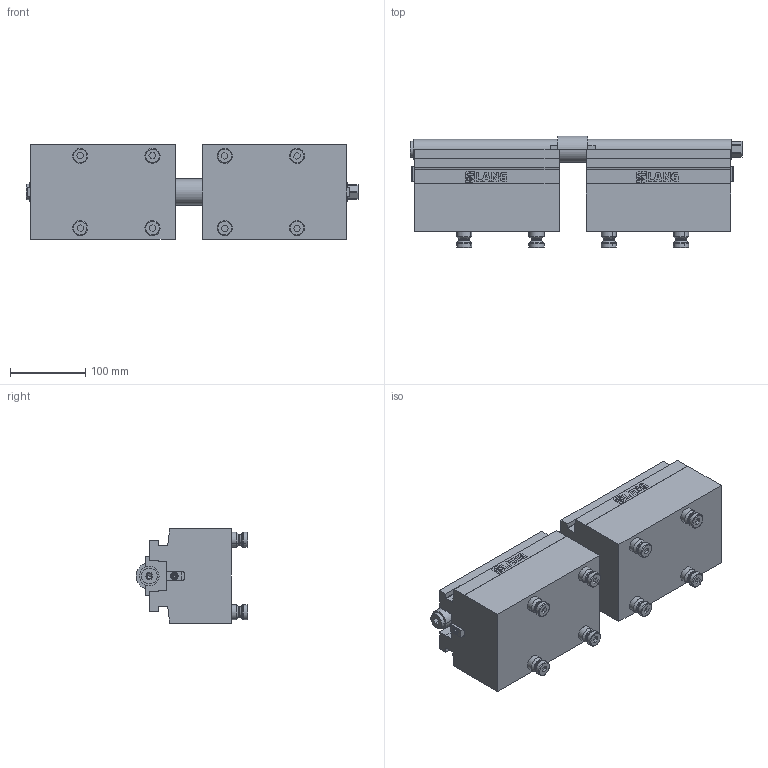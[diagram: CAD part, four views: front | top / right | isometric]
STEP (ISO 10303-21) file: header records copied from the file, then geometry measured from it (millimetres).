
FILE_DESCRIPTION (( 'STEP AP214' ), '1' );
FILE_NAME ('81415.STEP', '2020-10-28T07:15:39', ( '' ), ( '' ), 'SwSTEP 2.0', 'SolidWorks 2019', '' );
FILE_SCHEMA (( 'AUTOMOTIVE_DESIGN' ));
Length unit declared in the file: millimetre
Products named in the file (1): 81415
Bounding box: 441 x 148.5 x 125.6 mm (x, y, z)
Volume: 4822468.3 mm3; surface area: 347027 mm2
Topology: 23 solids, 23 shells, 1071 faces, 2643 edges, 1686 vertices
Faces by surface type: plane 658, cylinder 159, cone 102, bspline 80, torus 72
Entity records: 44022 total; most frequent: CARTESIAN_POINT 6815, ORIENTED_EDGE 5238, DIRECTION 5005, EDGE_CURVE 2619, LINE 1901, VECTOR 1901, VERTEX_POINT 1686, AXIS2_PLACEMENT_3D 1552
